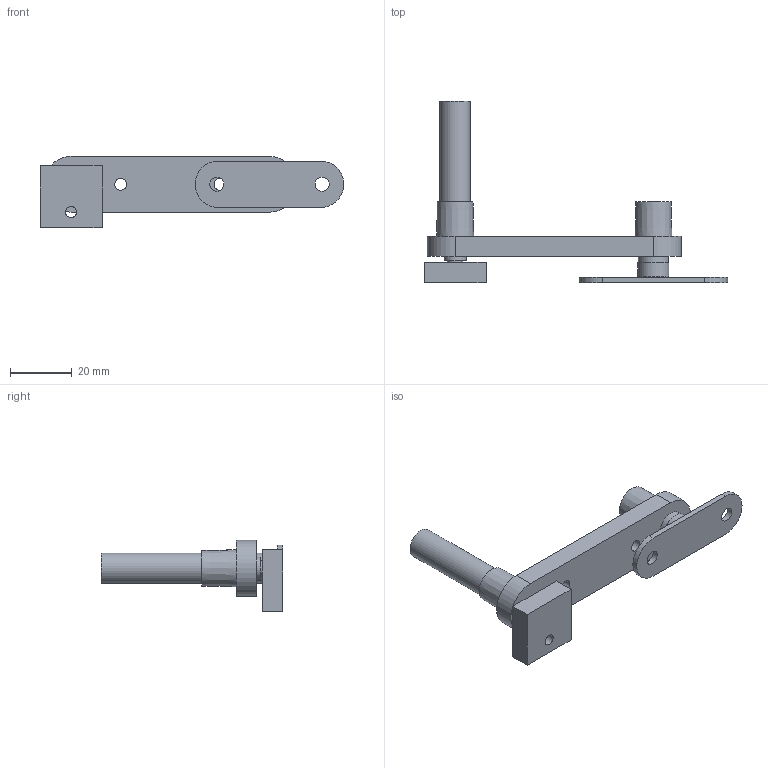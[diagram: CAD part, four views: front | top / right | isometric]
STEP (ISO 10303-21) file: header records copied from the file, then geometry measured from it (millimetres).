
FILE_DESCRIPTION( ( 'STEP AP214' ), '1' );
FILE_NAME( 'D:/Yug/2020/Sliding_&_Folding_Door_System/WingLine_L/New folder/QC/9266220.stp', '2020-06-08T13:10:15', ( '' ), ( '' ), ' ', 'PARTsolutions', ' ' );
FILE_SCHEMA( ( 'AUTOMOTIVE_DESIGN { 1 0 10303 214 1 1 1 1 }' ) );
Length unit declared in the file: millimetre
Products named in the file (4): 9266220; _support_unit_2magnet_1; _activator_2; _counterplate
Assembly tree (3 placements, depth 2):
  9266220
    _support_unit_2magnet_1
    _activator_2
    _counterplate
Bounding box: 98 x 58.6 x 23 mm (x, y, z)
Volume: 18130.3 mm3; surface area: 9255.6 mm2
Topology: 3 solids, 3 shells, 41 faces, 79 edges, 53 vertices
Faces by surface type: plane 23, cylinder 16, cone 2
Full cylindrical faces by diameter (mm): 3.6 x1, 3.8 x2, 4.6 x2, 5 x1, 7.15 x1, 7.5 x1, 8 x1, 9.69 x1, 9.82 x1, 10 x1
Entity records: 1396 total; most frequent: DIRECTION 190, CARTESIAN_POINT 161, ORIENTED_EDGE 128, AXIS2_PLACEMENT_3D 81, EDGE_LOOP 74, EDGE_CURVE 64, FACE_OUTER_BOUND 53, VERTEX_POINT 52
